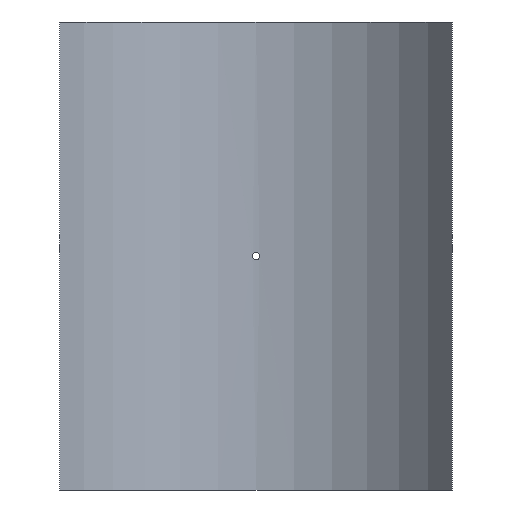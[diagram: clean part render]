
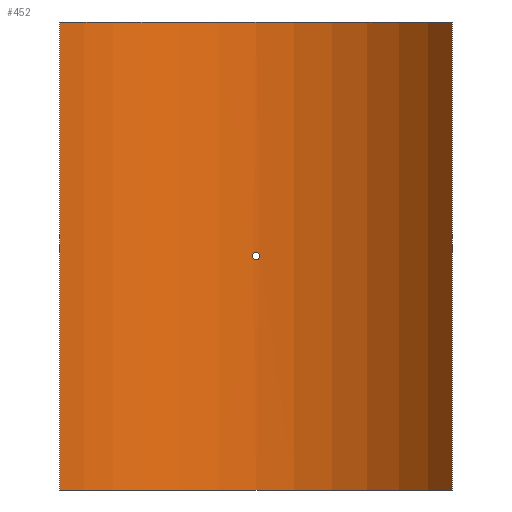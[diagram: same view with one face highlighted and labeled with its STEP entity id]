
A CAD part, front view. The second image highlights one B-rep face of the part: STEP entity #452.
In plain terms, the highlighted cylindrical face has radius 315 mm (diameter 630 mm), a partial arc.
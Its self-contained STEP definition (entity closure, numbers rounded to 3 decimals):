
#19=B_SPLINE_CURVE_WITH_KNOTS('',3,(#796,#797,#798,#799,#800,#801,#802,
#803,#804,#805,#806,#807,#808,#809,#810,#811,#812,#813,#814,#815,#816,#817,
#818,#819,#820,#821,#822,#823,#824,#825,#826,#827,#828,#829),
 .UNSPECIFIED.,.T.,.F.,(4,2,2,2,2,2,2,2,2,2,2,2,2,2,2,2,4),(0.,0.181,
0.362,0.542,0.723,0.904,
1.085,1.266,1.447,1.627,1.808,
1.989,2.17,2.351,2.531,2.712,
2.893),.UNSPECIFIED.);
#43=LINE('',#1105,#62);
#44=LINE('',#1108,#63);
#62=VECTOR('',#661,10.);
#63=VECTOR('',#664,10.);
#76=CYLINDRICAL_SURFACE('',#530,315.);
#88=FACE_BOUND('',#167,.T.);
#127=FACE_OUTER_BOUND('',#166,.T.);
#166=EDGE_LOOP('',(#405,#406,#407,#408));
#167=EDGE_LOOP('',(#409));
#201=CIRCLE('',#529,315.);
#202=CIRCLE('',#531,315.);
#219=VERTEX_POINT('',#794);
#242=VERTEX_POINT('',#1098);
#243=VERTEX_POINT('',#1100);
#244=VERTEX_POINT('',#1104);
#245=VERTEX_POINT('',#1106);
#267=EDGE_CURVE('',#219,#219,#19,.T.);
#299=EDGE_CURVE('',#242,#243,#201,.T.);
#301=EDGE_CURVE('',#244,#242,#43,.T.);
#302=EDGE_CURVE('',#245,#244,#202,.T.);
#303=EDGE_CURVE('',#245,#243,#44,.T.);
#405=ORIENTED_EDGE('',*,*,#301,.F.);
#406=ORIENTED_EDGE('',*,*,#302,.F.);
#407=ORIENTED_EDGE('',*,*,#303,.T.);
#408=ORIENTED_EDGE('',*,*,#299,.F.);
#409=ORIENTED_EDGE('',*,*,#267,.T.);
#452=ADVANCED_FACE('',(#127,#88),#76,.F.);
#529=AXIS2_PLACEMENT_3D('',#1101,#656,#657);
#530=AXIS2_PLACEMENT_3D('',#1103,#659,#660);
#531=AXIS2_PLACEMENT_3D('',#1107,#662,#663);
#656=DIRECTION('center_axis',(0.,0.,1.));
#657=DIRECTION('ref_axis',(0.825,0.565,0.));
#659=DIRECTION('center_axis',(0.,0.,1.));
#660=DIRECTION('ref_axis',(0.825,0.565,0.));
#661=DIRECTION('',(0.,0.,-1.));
#662=DIRECTION('center_axis',(0.,0.,-1.));
#663=DIRECTION('ref_axis',(0.825,0.565,0.));
#664=DIRECTION('',(0.,0.,-1.));
#794=CARTESIAN_POINT('',(4.8,314.963,0.));
#796=CARTESIAN_POINT('Ctrl Pts',(4.8,314.963,0.));
#797=CARTESIAN_POINT('Ctrl Pts',(4.8,314.963,-0.603));
#798=CARTESIAN_POINT('Ctrl Pts',(4.68,314.965,-1.246));
#799=CARTESIAN_POINT('Ctrl Pts',(4.19,314.972,-2.428));
#800=CARTESIAN_POINT('Ctrl Pts',(3.82,314.977,-2.968));
#801=CARTESIAN_POINT('Ctrl Pts',(2.968,314.986,-3.82));
#802=CARTESIAN_POINT('Ctrl Pts',(2.428,314.991,-4.19));
#803=CARTESIAN_POINT('Ctrl Pts',(1.246,314.998,-4.68));
#804=CARTESIAN_POINT('Ctrl Pts',(0.603,315.,-4.8));
#805=CARTESIAN_POINT('Ctrl Pts',(-0.603,315.,-4.8));
#806=CARTESIAN_POINT('Ctrl Pts',(-1.246,314.998,-4.68));
#807=CARTESIAN_POINT('Ctrl Pts',(-2.428,314.991,-4.19));
#808=CARTESIAN_POINT('Ctrl Pts',(-2.968,314.986,-3.82));
#809=CARTESIAN_POINT('Ctrl Pts',(-3.82,314.977,-2.968));
#810=CARTESIAN_POINT('Ctrl Pts',(-4.19,314.972,-2.428));
#811=CARTESIAN_POINT('Ctrl Pts',(-4.68,314.965,-1.246));
#812=CARTESIAN_POINT('Ctrl Pts',(-4.8,314.963,-0.603));
#813=CARTESIAN_POINT('Ctrl Pts',(-4.8,314.963,0.603));
#814=CARTESIAN_POINT('Ctrl Pts',(-4.68,314.965,1.246));
#815=CARTESIAN_POINT('Ctrl Pts',(-4.19,314.972,2.428));
#816=CARTESIAN_POINT('Ctrl Pts',(-3.82,314.977,2.968));
#817=CARTESIAN_POINT('Ctrl Pts',(-2.968,314.986,3.82));
#818=CARTESIAN_POINT('Ctrl Pts',(-2.428,314.991,4.19));
#819=CARTESIAN_POINT('Ctrl Pts',(-1.246,314.998,4.68));
#820=CARTESIAN_POINT('Ctrl Pts',(-0.603,315.,4.8));
#821=CARTESIAN_POINT('Ctrl Pts',(0.603,315.,4.8));
#822=CARTESIAN_POINT('Ctrl Pts',(1.246,314.998,4.68));
#823=CARTESIAN_POINT('Ctrl Pts',(2.428,314.991,4.19));
#824=CARTESIAN_POINT('Ctrl Pts',(2.968,314.986,3.82));
#825=CARTESIAN_POINT('Ctrl Pts',(3.82,314.977,2.968));
#826=CARTESIAN_POINT('Ctrl Pts',(4.19,314.972,2.428));
#827=CARTESIAN_POINT('Ctrl Pts',(4.68,314.965,1.246));
#828=CARTESIAN_POINT('Ctrl Pts',(4.8,314.963,0.603));
#829=CARTESIAN_POINT('Ctrl Pts',(4.8,314.963,0.));
#1098=CARTESIAN_POINT('',(260.,177.834,-310.));
#1100=CARTESIAN_POINT('',(-260.,177.834,-310.));
#1101=CARTESIAN_POINT('Origin',(0.,0.,
-310.));
#1103=CARTESIAN_POINT('Origin',(0.,0.,
0.));
#1104=CARTESIAN_POINT('',(260.,177.834,310.));
#1105=CARTESIAN_POINT('',(260.,177.834,0.));
#1106=CARTESIAN_POINT('',(-260.,177.834,310.));
#1107=CARTESIAN_POINT('Origin',(0.,0.,
310.));
#1108=CARTESIAN_POINT('',(-260.,177.834,0.));
